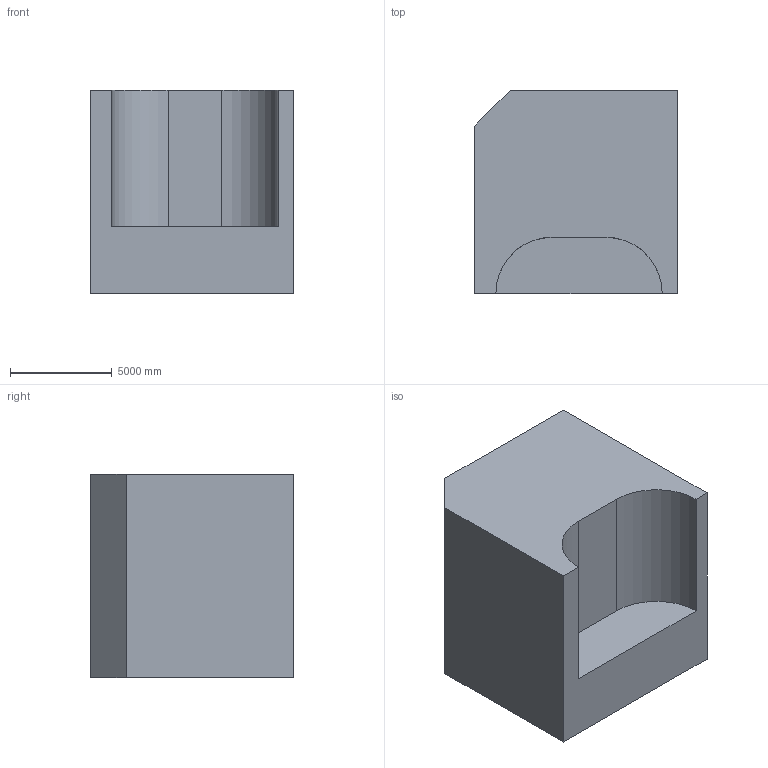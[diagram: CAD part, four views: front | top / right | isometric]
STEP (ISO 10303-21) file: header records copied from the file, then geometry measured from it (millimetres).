
FILE_DESCRIPTION (( 'STEP AP203' ), '1' );
FILE_NAME ('1060.STEP', '2022-08-18T12:36:16', ( 'user' ), ( '' ), 'SwSTEP 2.0', 'SolidWorks 2021', '' );
FILE_SCHEMA (( 'CONFIG_CONTROL_DESIGN' ));
Length unit declared in the file: centimetre
Products named in the file (1): 1060
Bounding box: 10000 x 10000 x 10000 mm (x, y, z)
Volume: 854266000958.8 mm3; surface area: 607778835.7 mm2
Topology: 1 solids, 1 shells, 11 faces, 27 edges, 18 vertices
Faces by surface type: plane 9, cylinder 2
Entity records: 402 total; most frequent: CARTESIAN_POINT 57, DIRECTION 55, ORIENTED_EDGE 54, EDGE_CURVE 27, LINE 23, VECTOR 23, VERTEX_POINT 18, AXIS2_PLACEMENT_3D 16
